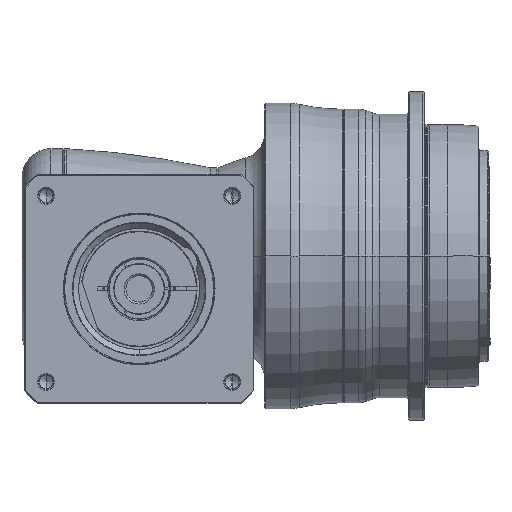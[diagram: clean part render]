
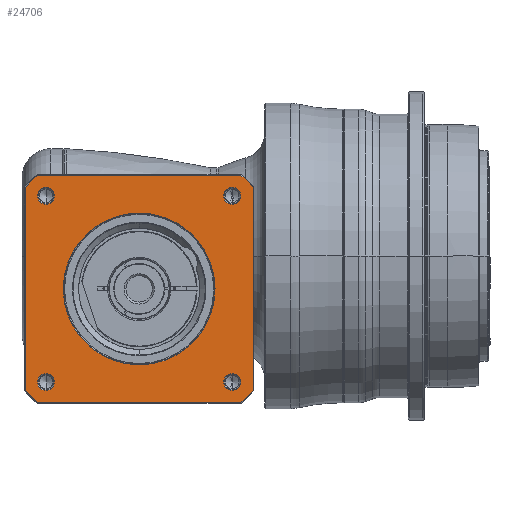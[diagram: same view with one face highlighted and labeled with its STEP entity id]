
A CAD part, front view. The second image highlights one B-rep face of the part: STEP entity #24706.
In plain terms, the highlighted planar face has unit normal (0, -1, 0) as drawn and (0, 0, 1) by its records, which use the part's own axes.
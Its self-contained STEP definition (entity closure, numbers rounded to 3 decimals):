
#23457=CARTESIAN_POINT('',(0.,0.,
76.));
#23458=DIRECTION('',(0.,0.,-1.));
#23459=DIRECTION('',(0.,-1.,0.));
#23460=AXIS2_PLACEMENT_3D('',#23457,#23458,#23459);
#23462=CARTESIAN_POINT('',(0.,0.,
76.));
#23463=DIRECTION('',(0.,0.,-1.));
#23464=DIRECTION('',(0.,1.,0.));
#23465=AXIS2_PLACEMENT_3D('',#23462,#23463,#23464);
#23467=CARTESIAN_POINT('',(0.,0.,76.));
#23468=DIRECTION('',(0.,0.,1.));
#23469=DIRECTION('',(-0.746,-0.666,0.));
#23470=AXIS2_PLACEMENT_3D('',#23467,#23468,#23469);
#23482=DIRECTION('',(1.,0.,0.));
#23483=VECTOR('',#23482,154.58);
#23484=CARTESIAN_POINT('',(-77.29,-86.5,76.));
#23485=LINE('',#23484,#23483);
#23495=CARTESIAN_POINT('',(0.,0.,76.));
#23496=DIRECTION('',(0.,0.,1.));
#23497=DIRECTION('',(0.666,-0.746,0.));
#23498=AXIS2_PLACEMENT_3D('',#23495,#23496,#23497);
#23510=DIRECTION('',(0.,1.,0.));
#23511=VECTOR('',#23510,154.58);
#23512=CARTESIAN_POINT('',(86.5,-77.29,76.));
#23513=LINE('',#23512,#23511);
#23523=CARTESIAN_POINT('',(0.,0.,76.));
#23524=DIRECTION('',(0.,0.,1.));
#23525=DIRECTION('',(0.746,0.666,0.));
#23526=AXIS2_PLACEMENT_3D('',#23523,#23524,#23525);
#23538=DIRECTION('',(-1.,0.,0.));
#23539=VECTOR('',#23538,154.58);
#23540=CARTESIAN_POINT('',(77.29,86.5,76.));
#23541=LINE('',#23540,#23539);
#23546=CARTESIAN_POINT('',(0.,0.,76.));
#23547=DIRECTION('',(0.,0.,1.));
#23548=DIRECTION('',(-0.666,0.746,0.));
#23549=AXIS2_PLACEMENT_3D('',#23546,#23547,#23548);
#23566=DIRECTION('',(0.,-1.,0.));
#23567=VECTOR('',#23566,154.58);
#23568=CARTESIAN_POINT('',(-86.5,77.29,76.));
#23569=LINE('',#23568,#23567);
#23652=CARTESIAN_POINT('',(-70.711,70.711,76.));
#23653=DIRECTION('',(0.,0.,1.));
#23654=DIRECTION('',(-1.,0.,0.));
#23655=AXIS2_PLACEMENT_3D('',#23652,#23653,#23654);
#23670=CARTESIAN_POINT('',(-70.711,70.711,76.));
#23671=DIRECTION('',(0.,0.,1.));
#23672=DIRECTION('',(1.,0.,0.));
#23673=AXIS2_PLACEMENT_3D('',#23670,#23671,#23672);
#23706=CARTESIAN_POINT('',(70.711,70.711,76.));
#23707=DIRECTION('',(0.,0.,1.));
#23708=DIRECTION('',(-1.,0.,0.));
#23709=AXIS2_PLACEMENT_3D('',#23706,#23707,#23708);
#23724=CARTESIAN_POINT('',(70.711,70.711,76.));
#23725=DIRECTION('',(0.,0.,1.));
#23726=DIRECTION('',(1.,0.,0.));
#23727=AXIS2_PLACEMENT_3D('',#23724,#23725,#23726);
#23760=CARTESIAN_POINT('',(70.711,-70.711,76.));
#23761=DIRECTION('',(0.,0.,1.));
#23762=DIRECTION('',(-1.,0.,0.));
#23763=AXIS2_PLACEMENT_3D('',#23760,#23761,#23762);
#23778=CARTESIAN_POINT('',(70.711,-70.711,76.));
#23779=DIRECTION('',(0.,0.,1.));
#23780=DIRECTION('',(1.,0.,0.));
#23781=AXIS2_PLACEMENT_3D('',#23778,#23779,#23780);
#23814=CARTESIAN_POINT('',(-70.711,-70.711,76.));
#23815=DIRECTION('',(0.,0.,1.));
#23816=DIRECTION('',(-1.,0.,0.));
#23817=AXIS2_PLACEMENT_3D('',#23814,#23815,#23816);
#23832=CARTESIAN_POINT('',(-70.711,-70.711,76.));
#23833=DIRECTION('',(0.,0.,1.));
#23834=DIRECTION('',(1.,0.,0.));
#23835=AXIS2_PLACEMENT_3D('',#23832,#23833,#23834);
#23964=CARTESIAN_POINT('',(86.5,-77.29,76.));
#23965=CARTESIAN_POINT('',(86.5,77.29,76.));
#23966=VERTEX_POINT('',#23964);
#23967=VERTEX_POINT('',#23965);
#23972=CARTESIAN_POINT('',(77.29,-86.5,76.));
#23973=VERTEX_POINT('',#23972);
#23976=CARTESIAN_POINT('',(-77.29,-86.5,76.));
#23977=VERTEX_POINT('',#23976);
#23980=CARTESIAN_POINT('',(-86.5,-77.29,76.));
#23981=VERTEX_POINT('',#23980);
#23984=CARTESIAN_POINT('',(-86.5,77.29,76.));
#23985=VERTEX_POINT('',#23984);
#23988=CARTESIAN_POINT('',(-77.29,86.5,76.));
#23989=VERTEX_POINT('',#23988);
#23992=CARTESIAN_POINT('',(77.29,86.5,76.));
#23993=VERTEX_POINT('',#23992);
#24002=CARTESIAN_POINT('',(-77.111,70.711,76.));
#24003=CARTESIAN_POINT('',(-64.311,70.711,76.));
#24004=VERTEX_POINT('',#24002);
#24005=VERTEX_POINT('',#24003);
#24028=CARTESIAN_POINT('',(77.111,70.711,76.));
#24029=CARTESIAN_POINT('',(64.311,70.711,76.));
#24030=VERTEX_POINT('',#24028);
#24031=VERTEX_POINT('',#24029);
#24036=CARTESIAN_POINT('',(77.111,-70.711,76.));
#24037=CARTESIAN_POINT('',(64.311,-70.711,76.));
#24038=VERTEX_POINT('',#24036);
#24039=VERTEX_POINT('',#24037);
#24044=CARTESIAN_POINT('',(-64.311,-70.711,76.));
#24045=CARTESIAN_POINT('',(-77.111,-70.711,76.));
#24046=VERTEX_POINT('',#24044);
#24047=VERTEX_POINT('',#24045);
#24052=CARTESIAN_POINT('',(0.,-57.65,76.));
#24053=CARTESIAN_POINT('',(0.,57.65,76.));
#24054=VERTEX_POINT('',#24052);
#24055=VERTEX_POINT('',#24053);
#24654=CARTESIAN_POINT('',(0.,0.,76.));
#24655=DIRECTION('',(0.,0.,1.));
#24656=DIRECTION('',(1.,0.,0.));
#24657=AXIS2_PLACEMENT_3D('',#24654,#24655,#24656);
#24658=PLANE('',#24657);
#24660=ORIENTED_EDGE('',*,*,#24659,.F.);
#24662=ORIENTED_EDGE('',*,*,#24661,.F.);
#24664=ORIENTED_EDGE('',*,*,#24663,.F.);
#24666=ORIENTED_EDGE('',*,*,#24665,.F.);
#24668=ORIENTED_EDGE('',*,*,#24667,.F.);
#24670=ORIENTED_EDGE('',*,*,#24669,.F.);
#24672=ORIENTED_EDGE('',*,*,#24671,.F.);
#24674=ORIENTED_EDGE('',*,*,#24673,.F.);
#24675=EDGE_LOOP('',(#24660,#24662,#24664,#24666,#24668,#24670,#24672,#24674));
#24676=FACE_OUTER_BOUND('',#24675,.F.);
#24677=ORIENTED_EDGE('',*,*,#24644,.F.);
#24679=ORIENTED_EDGE('',*,*,#24678,.F.);
#24680=EDGE_LOOP('',(#24677,#24679));
#24681=FACE_BOUND('',#24680,.F.);
#24683=ORIENTED_EDGE('',*,*,#24682,.T.);
#24685=ORIENTED_EDGE('',*,*,#24684,.T.);
#24686=EDGE_LOOP('',(#24683,#24685));
#24687=FACE_BOUND('',#24686,.F.);
#24689=ORIENTED_EDGE('',*,*,#24688,.T.);
#24691=ORIENTED_EDGE('',*,*,#24690,.T.);
#24692=EDGE_LOOP('',(#24689,#24691));
#24693=FACE_BOUND('',#24692,.F.);
#24695=ORIENTED_EDGE('',*,*,#24694,.T.);
#24697=ORIENTED_EDGE('',*,*,#24696,.T.);
#24698=EDGE_LOOP('',(#24695,#24697));
#24699=FACE_BOUND('',#24698,.F.);
#24701=ORIENTED_EDGE('',*,*,#24700,.T.);
#24703=ORIENTED_EDGE('',*,*,#24702,.T.);
#24704=EDGE_LOOP('',(#24701,#24703));
#24705=FACE_BOUND('',#24704,.F.);
#24706=ADVANCED_FACE('',(#24676,#24681,#24687,#24693,#24699,#24705),#24658,.T.);
#23461=CIRCLE('',#23460,57.65);
#23466=CIRCLE('',#23465,57.65);
#23471=CIRCLE('',#23470,116.);
#23499=CIRCLE('',#23498,116.);
#23527=CIRCLE('',#23526,116.);
#23550=CIRCLE('',#23549,116.);
#23656=CIRCLE('',#23655,6.4);
#23674=CIRCLE('',#23673,6.4);
#23710=CIRCLE('',#23709,6.4);
#23728=CIRCLE('',#23727,6.4);
#23764=CIRCLE('',#23763,6.4);
#23782=CIRCLE('',#23781,6.4);
#23818=CIRCLE('',#23817,6.4);
#23836=CIRCLE('',#23835,6.4);
#24644=EDGE_CURVE('',#24054,#24055,#23461,.T.);
#24659=EDGE_CURVE('',#23981,#23977,#23471,.T.);
#24661=EDGE_CURVE('',#23985,#23981,#23569,.T.);
#24663=EDGE_CURVE('',#23989,#23985,#23550,.T.);
#24665=EDGE_CURVE('',#23993,#23989,#23541,.T.);
#24667=EDGE_CURVE('',#23967,#23993,#23527,.T.);
#24669=EDGE_CURVE('',#23966,#23967,#23513,.T.);
#24671=EDGE_CURVE('',#23973,#23966,#23499,.T.);
#24673=EDGE_CURVE('',#23977,#23973,#23485,.T.);
#24678=EDGE_CURVE('',#24055,#24054,#23466,.T.);
#24682=EDGE_CURVE('',#24004,#24005,#23656,.T.);
#24684=EDGE_CURVE('',#24005,#24004,#23674,.T.);
#24688=EDGE_CURVE('',#24031,#24030,#23710,.T.);
#24690=EDGE_CURVE('',#24030,#24031,#23728,.T.);
#24694=EDGE_CURVE('',#24039,#24038,#23764,.T.);
#24696=EDGE_CURVE('',#24038,#24039,#23782,.T.);
#24700=EDGE_CURVE('',#24047,#24046,#23818,.T.);
#24702=EDGE_CURVE('',#24046,#24047,#23836,.T.);
